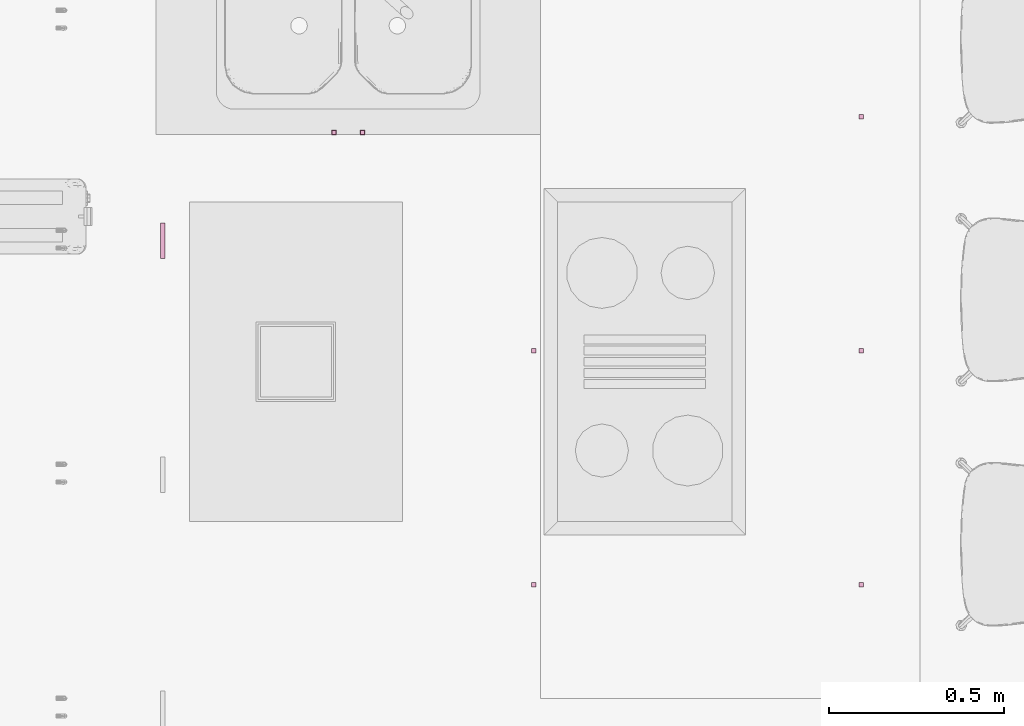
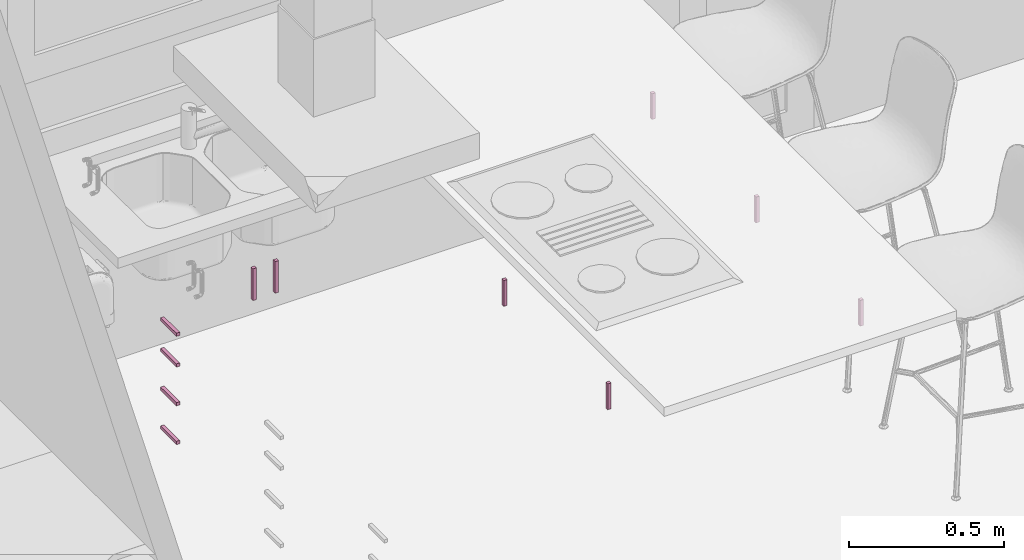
# One storey, part 32 of 40: 7 furnishings.
"""IFC2X3 building model written with IfcOpenShell, lengths in metres."""

from ifc_helpers import new_model, entity, si_unit, converted_unit, derived_unit, direction, frame, frame_2d, origin, place, context, subcontext, project, spatial, rectangle, extrude, source, transform, mapped, material, type_object, type_shapes, element, save


model = new_model("IFC2X3")

# Units and contexts
model_context = context("Model", 3, precision=1e-05, world=origin(), true_north=direction((6.12303176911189e-17, 1.0)))
body_context = subcontext(model_context, "Body", "Model", "MODEL_VIEW")
ifc_project = project(units=[si_unit("LENGTHUNIT", "METRE"), si_unit("AREAUNIT", "SQUARE_METRE"), si_unit("VOLUMEUNIT", "CUBIC_METRE"), converted_unit("PLANEANGLEUNIT", "DEGREE", entity("IfcRatioMeasure", 0.0174532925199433), si_unit("PLANEANGLEUNIT", "RADIAN"), dimensions=[0, 0, 0, 0, 0, 0, 0]), si_unit("MASSUNIT", "GRAM", prefix="KILO"), derived_unit("MASSDENSITYUNIT", [(si_unit("MASSUNIT", "GRAM", prefix="KILO"), 1), (si_unit("LENGTHUNIT", "METRE"), -3)]), si_unit("TIMEUNIT", "SECOND"), si_unit("FREQUENCYUNIT", "HERTZ"), si_unit("THERMODYNAMICTEMPERATUREUNIT", "DEGREE_CELSIUS"), derived_unit("THERMALTRANSMITTANCEUNIT", [(si_unit("MASSUNIT", "GRAM", prefix="KILO"), 1), (si_unit("THERMODYNAMICTEMPERATUREUNIT", "KELVIN"), -1), (si_unit("TIMEUNIT", "SECOND"), -3)]), derived_unit("VOLUMETRICFLOWRATEUNIT", [(si_unit("LENGTHUNIT", "METRE"), 3), (si_unit("TIMEUNIT", "SECOND"), -1)]), si_unit("ELECTRICCURRENTUNIT", "AMPERE"), si_unit("ELECTRICVOLTAGEUNIT", "VOLT"), si_unit("POWERUNIT", "WATT"), si_unit("FORCEUNIT", "NEWTON", prefix="KILO"), si_unit("ILLUMINANCEUNIT", "LUX"), si_unit("LUMINOUSFLUXUNIT", "LUMEN"), si_unit("LUMINOUSINTENSITYUNIT", "CANDELA"), derived_unit("USERDEFINED", [(si_unit("MASSUNIT", "GRAM", prefix="KILO"), -1), (si_unit("LENGTHUNIT", "METRE"), -2), (si_unit("TIMEUNIT", "SECOND"), 3), (si_unit("LUMINOUSFLUXUNIT", "LUMEN"), 1)]), derived_unit("LINEARVELOCITYUNIT", [(si_unit("LENGTHUNIT", "METRE"), 1), (si_unit("TIMEUNIT", "SECOND"), -1)]), si_unit("PRESSUREUNIT", "PASCAL"), derived_unit("USERDEFINED", [(si_unit("LENGTHUNIT", "METRE"), -2), (si_unit("MASSUNIT", "GRAM", prefix="KILO"), 1), (si_unit("TIMEUNIT", "SECOND"), -2)])], contexts=[model_context])

# Site, building, storey, space
site_placement = place(None, origin())
site = spatial("IfcSite", under=ifc_project, at=site_placement, Name="Surface", CompositionType="ELEMENT")
building_placement = place(site_placement, origin())
building = spatial("IfcBuilding", under=site, at=building_placement, CompositionType="ELEMENT")
storey_placement = place(building_placement, origin())
storey = spatial("IfcBuildingStorey", under=building, at=storey_placement, Name="RDC", CompositionType="ELEMENT", Elevation=-1.0941605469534e-13)
space_placement = place(storey_placement, origin())
space = spatial("IfcSpace", under=storey, at=space_placement, Name="21", CompositionType="ELEMENT", InteriorOrExteriorSpace="INTERNAL")

# Furnishings
ifc_material = material(Name="Plastique - Noir")
furniture_type_1 = type_object("IfcFurnitureType", Name="670 mm", material=ifc_material)
shared_shape_1 = source(origin(), body_context, "Body", "SweptSolid", [
    extrude(rectangle(XDim=0.0127, YDim=0.1016, at=frame_2d((-6.76542155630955e-17, 3.46944695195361e-18), x_axis=(1.0, 0.0))), frame((0.0187377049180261, -0.619049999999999, 0.802850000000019), z_axis=(0.0, 0.0, 1.0), x_axis=(0.0, 1.0, 0.0)), (0.0, 0.0, 1.0), 0.0127000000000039),
    extrude(rectangle(XDim=0.0127, YDim=0.101600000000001, at=frame_2d((-6.76542155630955e-17, 0.0), x_axis=(1.0, 0.0))), frame((0.0187377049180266, -0.619049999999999, 0.682200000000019), z_axis=(0.0, 0.0, 1.0), x_axis=(0.0, 1.0, 0.0)), (0.0, 0.0, 1.0), 0.0126999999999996),
    extrude(rectangle(XDim=0.0127, YDim=0.101600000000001, at=frame_2d((-6.76542155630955e-17, 3.46944695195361e-18), x_axis=(1.0, 0.0))), frame((0.0187377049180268, -0.619049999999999, 0.529800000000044), z_axis=(0.0, 0.0, 1.0), x_axis=(0.0, 1.0, 0.0)), (0.0, 0.0, 1.0), 0.0126999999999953),
    extrude(rectangle(XDim=0.0127, YDim=0.101600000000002, at=frame_2d((-6.76542155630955e-17, 3.46944695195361e-18), x_axis=(1.0, 0.0))), frame((0.0187377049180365, -0.619049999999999, 0.377400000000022), z_axis=(0.0, 0.0, 1.0), x_axis=(0.0, 1.0, 0.0)), (0.0, 0.0, 1.0), 0.0126999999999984),
])
type_shapes(furniture_type_1, [shared_shape_1])
furnishing_1_placement = place(space_placement, frame((-2.50248888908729, 6.59922297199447, 0.0), z_axis=(0.0, 0.0, 1.0), x_axis=(0.0, 1.0, 0.0)))
element("IfcFurnishingElement", 1, at=furnishing_1_placement, inside=space, type_object=furniture_type_1, material=ifc_material, Name="Placard - 4 tiroirs:670 mm", ObjectType="670 mm", context=body_context, shape_type="MappedRepresentation", body=[
    mapped(shared_shape_1, transform((0.0, 0.0, 0.0), scale=1.0)),
])
furniture_type_2 = type_object("IfcFurnitureType", Name="1100 mm", material=ifc_material)
shared_shape_2 = source(origin(), body_context, "Body", "SweptSolid", [
    extrude(rectangle(XDim=0.0127, YDim=0.0126999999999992, at=frame_2d((-6.76542155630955e-17, 4.33680868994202e-18), x_axis=(1.0, 0.0))), frame((0.0600127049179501, -0.61905, 0.557469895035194), z_axis=(0.0, 0.0, 1.0), x_axis=(0.0, 1.0, 0.0)), (0.0, 0.0, 1.0), 0.124730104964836),
    extrude(rectangle(XDim=0.0127, YDim=0.0127000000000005, at=frame_2d((-6.80878964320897e-17, -2.16840434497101e-18), x_axis=(1.0, 0.0))), frame((-0.022537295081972, -0.61905, 0.557469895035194), z_axis=(0.0, 0.0, 1.0), x_axis=(0.0, 1.0, 0.0)), (0.0, 0.0, 1.0), 0.124730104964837),
])
type_shapes(furniture_type_2, [shared_shape_2])
furnishing_2_placement = place(space_placement, frame((-1.37122659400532, 7.54701067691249, 0.0)))
element("IfcFurnishingElement", 2, at=furnishing_2_placement, inside=space, type_object=furniture_type_2, material=ifc_material, Name="Placard - Porte double unité pour évier:1100 mm", ObjectType="1100 mm", context=body_context, shape_type="MappedRepresentation", body=[
    mapped(shared_shape_2, transform((0.0, 0.0, 0.0), scale=1.0)),
])
furniture_type_3 = type_object("IfcFurnitureType", Name="450 mm", material=ifc_material)
shared_shape_3 = source(origin(), body_context, "Body", "SweptSolid", [
    extrude(rectangle(XDim=0.0127, YDim=0.0127000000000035, at=frame_2d((-6.76542155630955e-17, 3.38271077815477e-17), x_axis=(1.0, 0.0))), frame((0.302937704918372, -0.469050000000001, 0.701250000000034), z_axis=(0.0, 0.0, 1.0), x_axis=(0.0, 1.0, 0.0)), (0.0, 0.0, 1.0), 0.1016),
])
type_shapes(furniture_type_3, [shared_shape_3])
for number, where, z_axis, x_axis, name in (
    (3, (-0.352488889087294, 6.60574838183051, 0.0119999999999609), (0.0, 0.0, 1.0), (0.0, -1.0, 0.0), "Placard - Une porte:450 mm"),
    (4, (-0.352488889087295, 5.93574838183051, 0.011999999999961), (0.0, 0.0, 1.0), (0.0, -1.0, 0.0), "Placard - Une porte:450 mm"),
):
    element("IfcFurnishingElement", number, at=place(space_placement, frame(where, z_axis=z_axis, x_axis=x_axis)), inside=space, type_object=furniture_type_3, material=ifc_material, Name=name, ObjectType="450 mm", context=body_context, shape_type="MappedRepresentation", body=[
        mapped(shared_shape_3, transform((0.0, 0.0, 0.0), scale=1.0)),
    ])
furniture_type_4 = type_object("IfcFurnitureType", Name="450 mm", material=ifc_material)
shared_shape_4 = source(origin(), body_context, "Body", "SweptSolid", [
    extrude(rectangle(XDim=0.0127000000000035, YDim=0.0127, at=frame_2d((3.38271077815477e-17, 6.76542155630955e-17), x_axis=(1.0, 0.0))), frame((0.302937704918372, 0.469050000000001, 0.701250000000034), z_axis=(0.0, 0.0, 1.0), x_axis=(-1.0, 0.0, 0.0)), (0.0, 0.0, 1.0), 0.1016),
])
type_shapes(furniture_type_4, [shared_shape_4])
for number, where, z_axis, x_axis, name in (
    (5, (-0.352488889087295, 6.60574838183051, 0.011999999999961), (0.0, 0.0, 1.0), (0.0, -1.0, 0.0), "Placard - Une porte:450 mm"),
    (6, (-0.352488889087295, 5.93574838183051, 0.011999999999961), (0.0, 0.0, 1.0), (0.0, -1.0, 0.0), "Placard - Une porte:450 mm"),
):
    element("IfcFurnishingElement", number, at=place(space_placement, frame(where, z_axis=z_axis, x_axis=x_axis)), inside=space, type_object=furniture_type_4, material=ifc_material, Name=name, ObjectType="450 mm", context=body_context, shape_type="MappedRepresentation", body=[
        mapped(shared_shape_4, transform((0.0, 0.0, 0.0), scale=1.0)),
    ])
furniture_type_5 = type_object("IfcFurnitureType", Name="450 mm 3", material=ifc_material)
shared_shape_5 = source(origin(), body_context, "Body", "SweptSolid", [
    extrude(rectangle(XDim=0.0127000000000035, YDim=0.0127, at=frame_2d((-1.69135538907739e-17, -6.76542155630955e-17), x_axis=(1.0, 0.0))), frame((0.277937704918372, 0.46905, 0.701250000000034), z_axis=(0.0, 0.0, 1.0), x_axis=(-1.0, 0.0, 0.0)), (0.0, 0.0, 1.0), 0.1016),
])
type_shapes(furniture_type_5, [shared_shape_5])
furnishing_3_placement = place(space_placement, frame((-0.352488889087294, 7.25074838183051, 0.011999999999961), z_axis=(0.0, 0.0, 1.0), x_axis=(0.0, -1.0, 0.0)))
element("IfcFurnishingElement", 7, at=furnishing_3_placement, inside=space, type_object=furniture_type_5, material=ifc_material, Name="Placard - Une porte:450 mm 3", ObjectType="450 mm 3", context=body_context, shape_type="MappedRepresentation", body=[
    mapped(shared_shape_5, transform((0.0, 0.0, 0.0), scale=1.0)),
])

save(model, "model.ifc")
